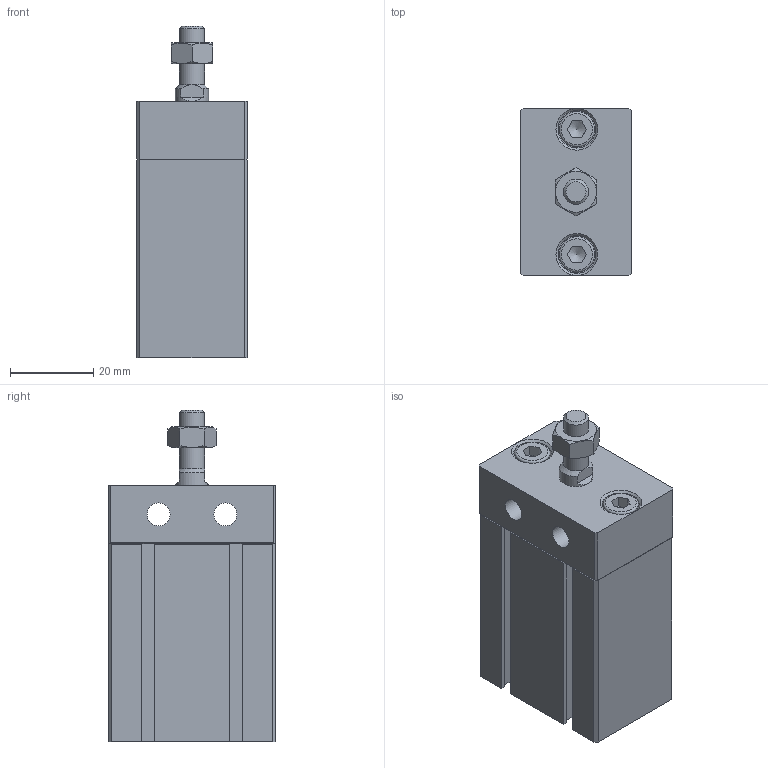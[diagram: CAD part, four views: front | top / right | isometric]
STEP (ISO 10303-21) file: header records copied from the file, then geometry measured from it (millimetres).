
FILE_DESCRIPTION((''),'2;1');
FILE_NAME('I:\3D電子目錄\氣缸\ND\ND\ND20-B\ND20x20-B.stp','2007-07-23T20:27:13',('Administrator'),(''),'Autodesk Inventor 11','Autodesk Inventor 11','');
FILE_SCHEMA(('AUTOMOTIVE_DESIGN { 1 0 10303 214 1 1 1 1 }'));
Length unit declared in the file: millimetre
Products named in the file (4): ND20-B; R 形環 22; ISO 4762 M5 x 12
Assembly tree (4 placements, depth 2):
  ND20-B
    ND20-B
    R 形環 22
    ISO 4762 M5 x 12  x2
Bounding box: 26.4 x 40.1 x 79.5 mm (x, y, z)
Volume: 58461.6 mm3; surface area: 17096.9 mm2
Topology: 5 solids, 5 shells, 170 faces, 420 edges, 269 vertices
Faces by surface type: plane 109, cylinder 28, cone 16, bspline 14, torus 3
Full cylindrical faces by diameter (mm): 1.5 x4, 5 x2, 5.5 x2, 6 x2, 8.5 x2, 9 x2, 13 x1, 21 x1
Entity records: 4613 total; most frequent: CARTESIAN_POINT 980, DIRECTION 710, ORIENTED_EDGE 692, EDGE_CURVE 346, VERTEX_POINT 244, VECTOR 238, LINE 238, AXIS2_PLACEMENT_3D 236
